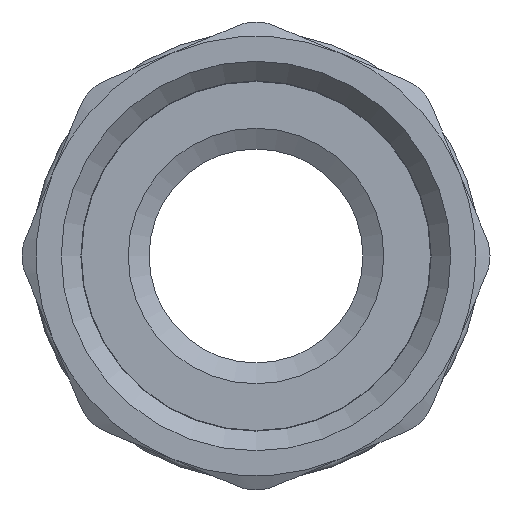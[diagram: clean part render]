
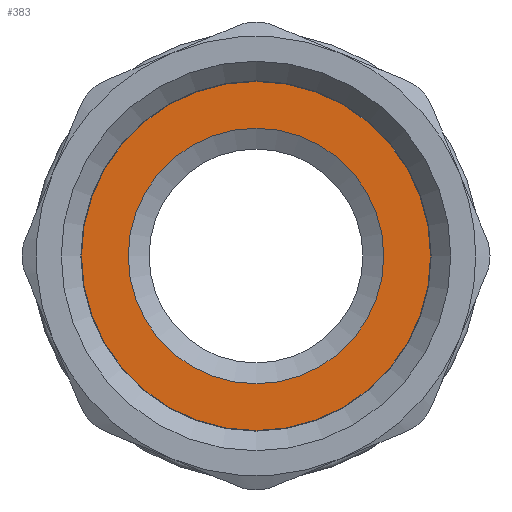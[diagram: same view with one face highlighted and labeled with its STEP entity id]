
A CAD part, front view. The second image highlights one B-rep face of the part: STEP entity #383.
In plain terms, the highlighted planar face has unit normal (0, -1, 0).
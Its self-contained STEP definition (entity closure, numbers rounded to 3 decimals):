
#383=ADVANCED_FACE('',(#1262,#1264),#1266,.F.);
#1262=FACE_BOUND('',#1263,.T.);
#1263=EDGE_LOOP('',(#1586));
#1264=FACE_BOUND('',#1265,.T.);
#1265=EDGE_LOOP('',(#1587));
#1266=PLANE('',#1267);
#1267=AXIS2_PLACEMENT_3D('',#1268,#1269,#1270);
#1268=CARTESIAN_POINT('',(0.,0.,0.));
#1269=DIRECTION('',(0.,1.,0.));
#1270=DIRECTION('',(-1.,0.,0.));
#1586=ORIENTED_EDGE('',*,*,#1738,.F.);
#1587=ORIENTED_EDGE('',*,*,#1739,.T.);
#1738=EDGE_CURVE('',#2006,#2006,#2007,.T.);
#1739=EDGE_CURVE('',#2008,#2008,#2009,.T.);
#2006=VERTEX_POINT('',#3997);
#2007=CIRCLE('',#3998,15.1);
#2008=VERTEX_POINT('',#4002);
#2009=CIRCLE('',#4003,11.05);
#3997=CARTESIAN_POINT('',(-15.1,0.,0.));
#3998=AXIS2_PLACEMENT_3D('',#3999,#4000,#4001);
#3999=CARTESIAN_POINT('',(0.,0.,0.));
#4000=DIRECTION('',(0.,1.,0.));
#4001=DIRECTION('',(-1.,0.,0.));
#4002=CARTESIAN_POINT('',(-11.05,0.,0.));
#4003=AXIS2_PLACEMENT_3D('',#4004,#4005,#4006);
#4004=CARTESIAN_POINT('',(0.,0.,0.));
#4005=DIRECTION('',(0.,1.,0.));
#4006=DIRECTION('',(-1.,0.,0.));
